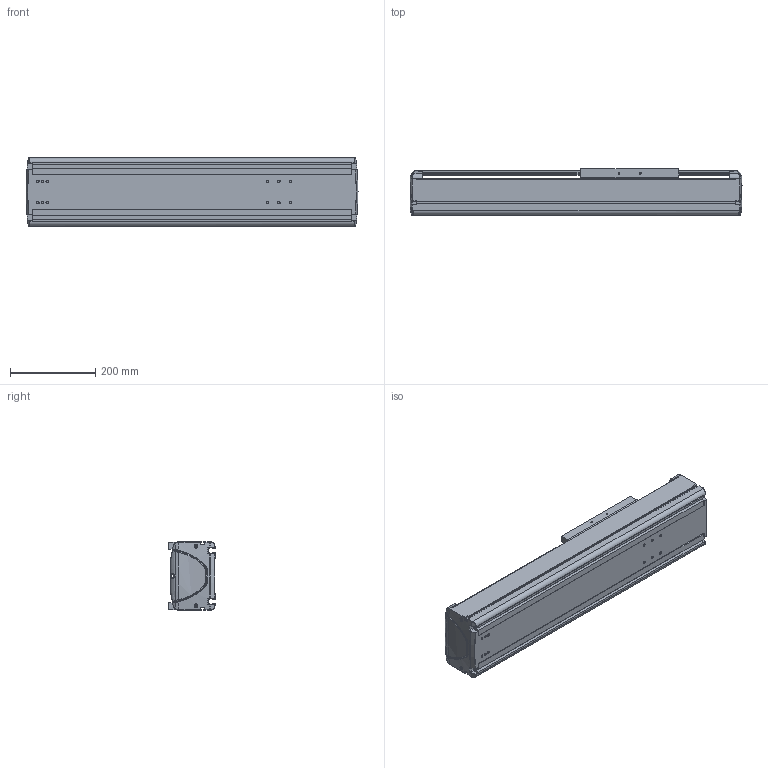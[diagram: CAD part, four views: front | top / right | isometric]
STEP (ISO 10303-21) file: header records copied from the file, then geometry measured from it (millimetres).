
FILE_DESCRIPTION((''),'2;1');
FILE_NAME('BE50G-ST-L_N-35_IGS_PRT','2017-06-18T',(' '),(''),'PRO/ENGINEER BY PARAMETRIC TECHNOLOGY CORPORATION, 2015030','PRO/ENGINEER BY PARAMETRIC TECHNOLOGY CORPORATION, 2015030','');
FILE_SCHEMA(('CONFIG_CONTROL_DESIGN'));
Length unit declared in the file: millimetre
Products named in the file (1): BE50G-ST-L_N-35_IGS_PRT
Bounding box: 779.98 x 110 x 160 mm (x, y, z)
Volume: 3873263.5 mm3; surface area: 1272687.5 mm2
Topology: 2 solids, 71 shells, 1548 faces, 4052 edges, 2581 vertices
Faces by surface type: cylinder 642, plane 609, bspline 110, torus 87, cone 60, sphere 40
Entity records: 53032 total; most frequent: CARTESIAN_POINT 15325, ORIENTED_EDGE 7764, DIRECTION 7758, EDGE_CURVE 4020, AXIS2_PLACEMENT_3D 2878, VERTEX_POINT 2579, VECTOR 2002, LINE 2002
